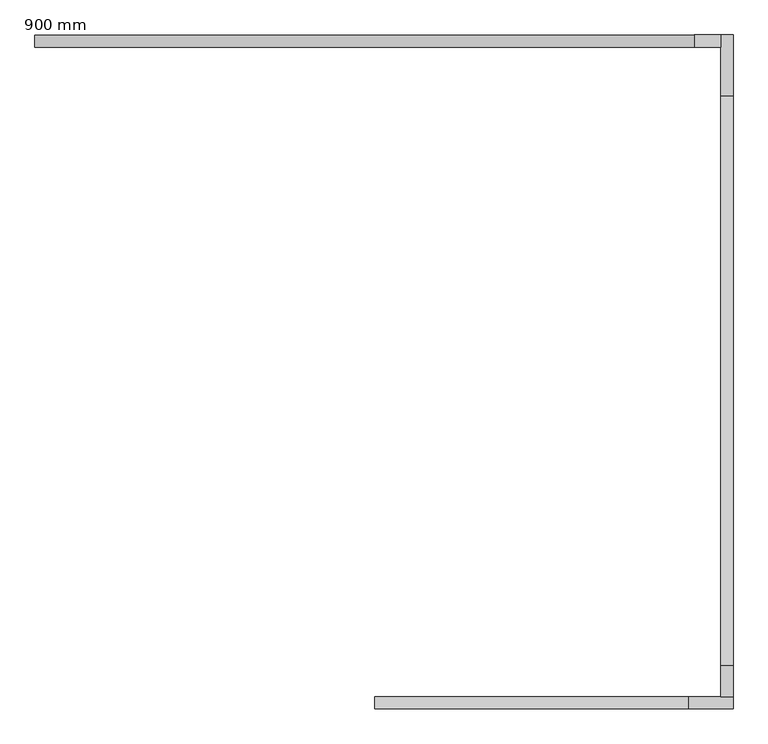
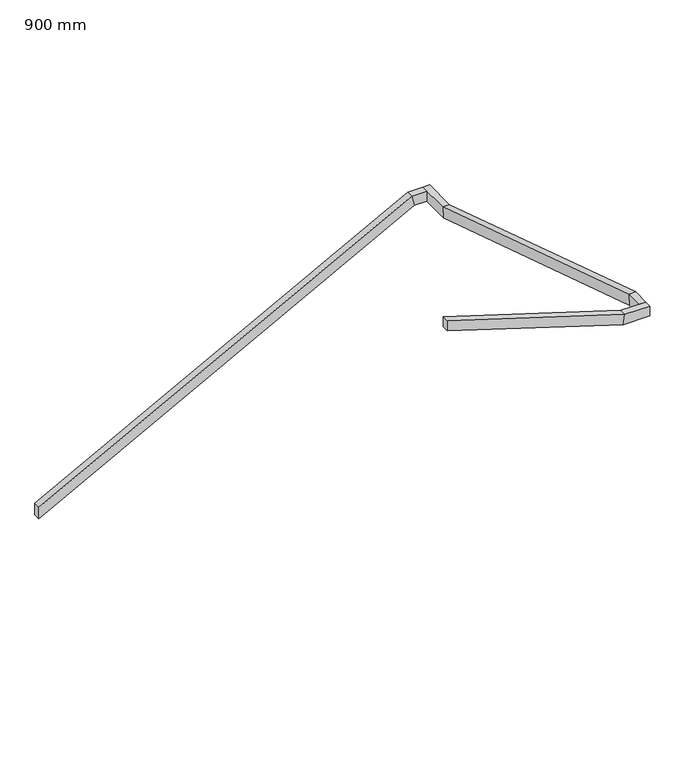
"""IFC4 building model written with IfcOpenShell, lengths in millimetres: railing geometry, 900 mm."""

from ifc_helpers import new_model, si_unit, origin, place, context, project, spatial, faceted_brep, source, transform, mapped, element, save


def railing_900_mm_31de1811(model_context):
    return source(origin(), model_context, "Body", "Brep", [
        faceted_brep([(-1189.2976233, -939.2520499, 1070.0), (-1189.2976233, -888.4520499, 1070.0), (-1189.2976233, -888.4520499, 983.6752312), (-1189.2976233, -939.2520499, 983.6752312), (1525.5377968, -939.2520499, 2515.2429899), (1525.5377968, -888.4520499, 2515.2429899), (1544.5568, -888.4520499, 2439.0429899), (1544.5568, -939.2520499, 2439.0429899), (1634.9023767, -939.2520499, 2515.2429899), (1634.9023767, -939.2520499, 2439.0429899), (1634.9023767, -888.4520499, 2439.0429899), (1634.9023767, -888.4520499, 2515.2429899)], [[[0, 1, 2, 3]], [[1, 0, 4, 5]], [[2, 1, 5, 6]], [[3, 2, 6, 7]], [[0, 3, 7, 4]], [[8, 9, 10, 11]], [[5, 4, 8, 11]], [[6, 5, 11, 10]], [[7, 6, 10, 9]], [[4, 7, 9, 8]]]),
        faceted_brep([(1634.9023767, -888.4520499, 2515.2429899), (1685.7023767, -888.4520499, 2515.2429899), (1685.7023767, -888.4520499, 2439.0429899), (1634.9023767, -888.4520499, 2439.0429899), (1634.9023767, -1138.3468464, 2515.2429899), (1685.7023767, -1138.3468464, 2515.2429899), (1685.7023767, -1150.2265541, 2439.0429899), (1634.9023767, -1150.2265541, 2439.0429899), (1634.9023767, -3484.8765251, 3265.1249383), (1685.7023767, -3484.8765251, 3265.1249383), (1685.7023767, -3496.7562328, 3188.9249383), (1634.9023767, -3496.7562328, 3188.9249383), (1634.9023767, -3612.8350425, 3265.1249383), (1634.9023767, -3612.8350425, 3188.9249383), (1685.7023767, -3612.8350425, 3188.9249383), (1685.7023767, -3612.8350425, 3265.1249383)], [[[0, 1, 2, 3]], [[1, 0, 4, 5]], [[2, 1, 5, 6]], [[3, 2, 6, 7]], [[0, 3, 7, 4]], [[5, 4, 8, 9]], [[6, 5, 9, 10]], [[7, 6, 10, 11]], [[4, 7, 11, 8]], [[12, 13, 14, 15]], [[9, 8, 12, 15]], [[10, 9, 15, 14]], [[11, 10, 14, 13]], [[8, 11, 13, 12]]]),
        faceted_brep([(1685.7023767, -3612.8350425, 3265.1249383), (1685.7023767, -3663.6350425, 3265.1249383), (1685.7023767, -3663.6350425, 3188.9249383), (1685.7023767, -3612.8350425, 3188.9249383), (1503.7793943, -3612.8350425, 3265.1249383), (1503.7793943, -3663.6350425, 3265.1249383), (1492.1287862, -3663.6350425, 3188.9249383), (1492.1287862, -3612.8350425, 3188.9249383), (210.7023767, -3612.8350425, 3670.0), (210.7023767, -3612.8350425, 3590.1520806), (210.7023767, -3663.6350425, 3590.1520806), (210.7023767, -3663.6350425, 3670.0)], [[[0, 1, 2, 3]], [[1, 0, 4, 5]], [[2, 1, 5, 6]], [[3, 2, 6, 7]], [[0, 3, 7, 4]], [[8, 9, 10, 11]], [[5, 4, 8, 11]], [[6, 5, 11, 10]], [[7, 6, 10, 9]], [[4, 7, 9, 8]]]),
    ])


if __name__ == "__main__":
    model = new_model("IFC4")
    model_context = context("Model", 3, world=origin())
    ifc_project = project(units=[si_unit("LENGTHUNIT", "METRE", prefix="MILLI")], contexts=[model_context])
    site = spatial("IfcSite", under=ifc_project)
    building = spatial("IfcBuilding", under=site)
    placement = place(None, origin())
    railing_900_mm_shape = railing_900_mm_31de1811(model_context)
    element("IfcRailing", 1, ObjectType="900 mm", at=placement, inside=building, context=model_context, shape_type="MappedRepresentation", body=[
        mapped(railing_900_mm_shape, transform((0.0, 0.0, 0.0), x_axis=(1.0, 0.0, 0.0), y_axis=(0.0, 1.0, 0.0), z_axis=(0.0, 0.0, 1.0))),
    ])
    save(model, "model.ifc")
